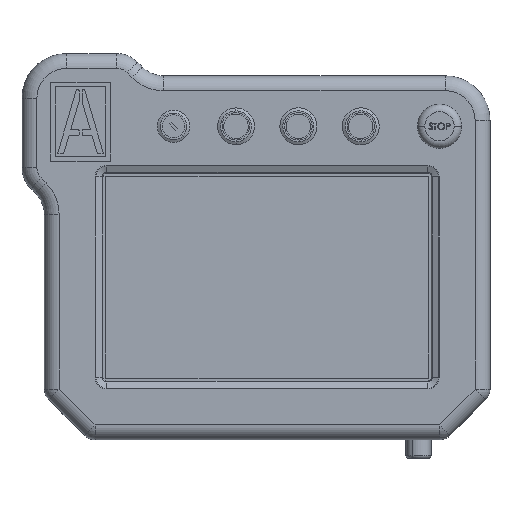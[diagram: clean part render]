
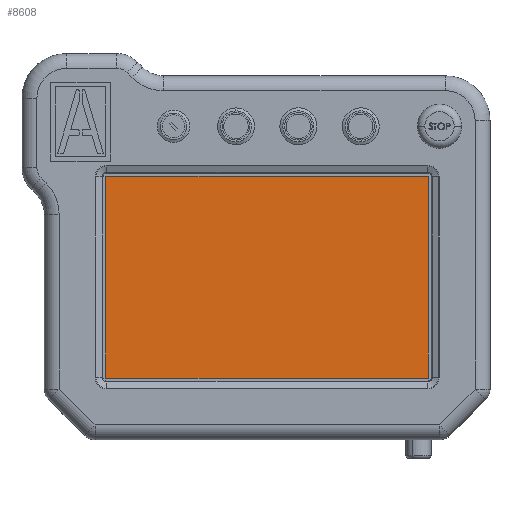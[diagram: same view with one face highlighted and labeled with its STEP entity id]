
A CAD part, top view. The second image highlights one B-rep face of the part: STEP entity #8608.
In plain terms, the highlighted planar face has unit normal (0, 0, 1).
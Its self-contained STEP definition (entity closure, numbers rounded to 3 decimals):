
#32 = ORIENTED_EDGE ( 'NONE', *, *, #820, .F. ) ;
#653 = EDGE_CURVE ( 'NONE', #17202, #10673, #7520, .T. ) ;
#820 = EDGE_CURVE ( 'NONE', #32612, #9822, #18239, .T. ) ;
#889 = CARTESIAN_POINT ( 'NONE',  ( 67.98, 108.59, 4.75 ) ) ;
#1343 = VECTOR ( 'NONE', #51478, 1000. ) ;
#4960 = CARTESIAN_POINT ( 'NONE',  ( -67.98, -108.59, 4.75 ) ) ;
#6320 = DIRECTION ( 'NONE',  ( 0., -1., 0. ) ) ;
#7520 = LINE ( 'NONE', #42982, #43383 ) ;
#8608 = ADVANCED_FACE ( 'NONE', ( #49460 ), #11388, .F. ) ;
#9822 = VERTEX_POINT ( 'NONE', #27820 ) ;
#10673 = VERTEX_POINT ( 'NONE', #35144 ) ;
#11388 = PLANE ( 'NONE',  #20216 ) ;
#13110 = CARTESIAN_POINT ( 'NONE',  ( -67.98, 108.59, 4.75 ) ) ;
#13599 = VECTOR ( 'NONE', #39836, 1000. ) ;
#17202 = VERTEX_POINT ( 'NONE', #4960 ) ;
#18239 = LINE ( 'NONE', #35001, #13599 ) ;
#18874 = EDGE_LOOP ( 'NONE', ( #19388, #29699, #32, #42823 ) ) ;
#19388 = ORIENTED_EDGE ( 'NONE', *, *, #653, .F. ) ;
#19913 = DIRECTION ( 'NONE',  ( 0., 0., -1. ) ) ;
#20216 = AXIS2_PLACEMENT_3D ( 'NONE', #27878, #19913, #6320 ) ;
#21602 = LINE ( 'NONE', #44009, #46914 ) ;
#27820 = CARTESIAN_POINT ( 'NONE',  ( 67.98, -108.59, 4.75 ) ) ;
#27878 = CARTESIAN_POINT ( 'NONE',  ( 0., 0., 4.75 ) ) ;
#29606 = LINE ( 'NONE', #13110, #1343 ) ;
#29699 = ORIENTED_EDGE ( 'NONE', *, *, #42188, .F. ) ;
#32612 = VERTEX_POINT ( 'NONE', #889 ) ;
#35001 = CARTESIAN_POINT ( 'NONE',  ( 67.98, 108.59, 4.75 ) ) ;
#35144 = CARTESIAN_POINT ( 'NONE',  ( -67.98, 108.59, 4.75 ) ) ;
#35766 = DIRECTION ( 'NONE',  ( -1., 0., 0. ) ) ;
#39836 = DIRECTION ( 'NONE',  ( 0., -1., 0. ) ) ;
#42188 = EDGE_CURVE ( 'NONE', #9822, #17202, #21602, .T. ) ;
#42823 = ORIENTED_EDGE ( 'NONE', *, *, #53303, .F. ) ;
#42982 = CARTESIAN_POINT ( 'NONE',  ( -67.98, -108.59, 4.75 ) ) ;
#43383 = VECTOR ( 'NONE', #54939, 1000. ) ;
#44009 = CARTESIAN_POINT ( 'NONE',  ( 67.98, -108.59, 4.75 ) ) ;
#46914 = VECTOR ( 'NONE', #35766, 1000. ) ;
#49460 = FACE_OUTER_BOUND ( 'NONE', #18874, .T. ) ;
#51478 = DIRECTION ( 'NONE',  ( 1., 0., 0. ) ) ;
#53303 = EDGE_CURVE ( 'NONE', #10673, #32612, #29606, .T. ) ;
#54939 = DIRECTION ( 'NONE',  ( 0., 1., 0. ) ) ;
